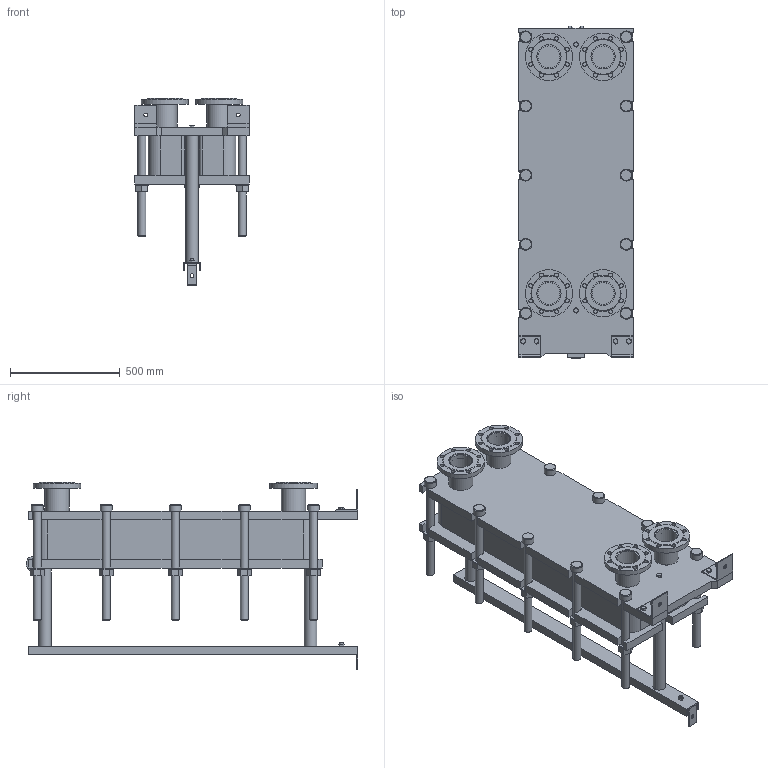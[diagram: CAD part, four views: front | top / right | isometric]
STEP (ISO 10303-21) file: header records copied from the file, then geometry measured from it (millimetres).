
FILE_DESCRIPTION(/* description */ (''),/* implementation_level */ '2;1');
FILE_NAME(/* name */ 'C:\Users\zhuro\Desktop\ENCO\TO\ЭН-04\ЭН-0,5-04-52-1.stp',/* time_stamp */ '2022-06-06T10:48:43+03:00',/* author */ ('zhuro'),/* organization */ (''),/* preprocessor_version */ 'ST-DEVELOPER v18.1',/* originating_system */ 'Autodesk Inventor 2022',/* authorisation */ '');
FILE_SCHEMA (('AUTOMOTIVE_DESIGN { 1 0 10303 214 3 1 1 }'));
Length unit declared in the file: millimetre
Products named in the file (1): ЭН-0,5-04-52-1
Bounding box: 520 x 1510 x 851 mm (x, y, z)
Volume: 158278171 mm3; surface area: 7299737.4 mm2
Topology: 45 solids, 45 shells, 668 faces, 1611 edges, 1048 vertices
Faces by surface type: plane 457, cylinder 166, cone 39, torus 6
Full cylindrical faces by diameter (mm): 8 x4, 10 x2, 16 x8, 18 x35, 36 x25, 40 x2, 42 x1, 45 x4, 54 x10, 57 x2, 60 x10, 68 x2, 100 x4, 110 x8, 215 x4
Entity records: 23607 total; most frequent: CARTESIAN_POINT 7348, DIRECTION 3371, ORIENTED_EDGE 3142, EDGE_CURVE 1571, AXIS2_PLACEMENT_3D 1199, VERTEX_POINT 1044, LINE 973, VECTOR 973
